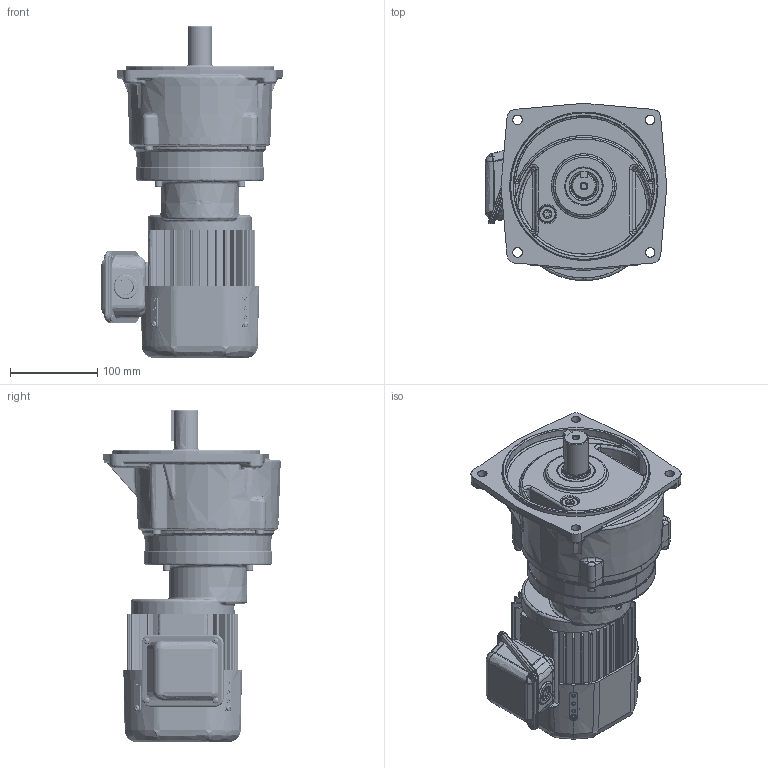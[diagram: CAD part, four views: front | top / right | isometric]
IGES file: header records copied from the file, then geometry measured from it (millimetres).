
Start section: SolidWorks IGES file using analytic representation for surfaces
Global section: file name: \\100.100.100.8\1_共有作業フォルダ\1-5_３Ｄデータ\solidworks\personal-folder\H.Nagayama\SGP1外形\P1(3D)\igs\TMFB2-01-(300~450).IGS; native system: SolidWorks 2018; preprocessor: SolidWorks 2018; author: sigma-giken; date: 200512.095248; units: millimetre
Bounding box: 208.03 x 203.34 x 380.6 mm (x, y, z)
Surface area: 541865 mm2 (no closed solid volume)
Topology: 0 solids, 0 shells, 2037 faces, 26242 edges, 26193 vertices
Faces by surface type: bspline 1120, revolution 917
